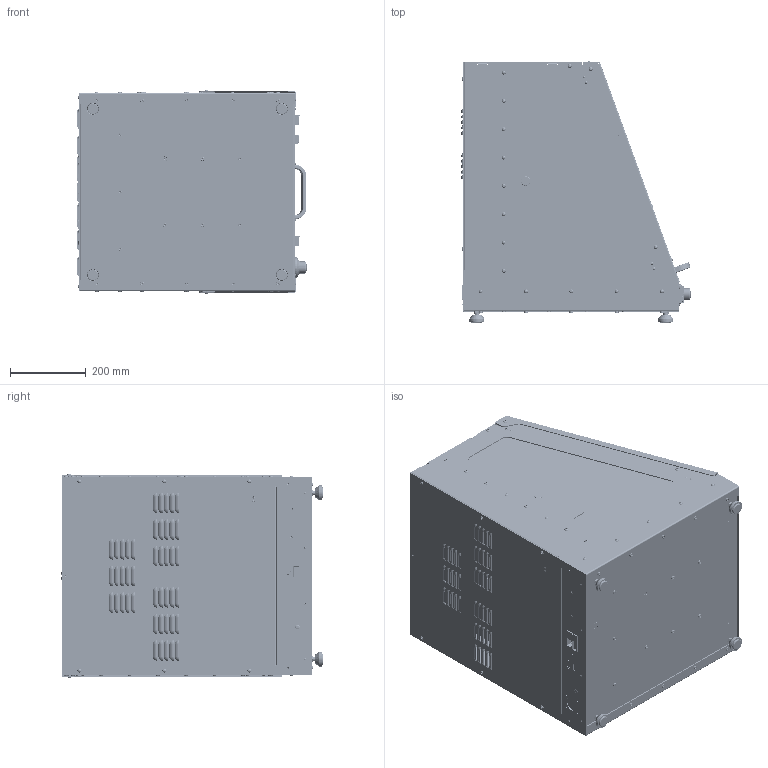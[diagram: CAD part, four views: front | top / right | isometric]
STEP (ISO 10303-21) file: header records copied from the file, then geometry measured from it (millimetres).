
FILE_DESCRIPTION (( 'STEP AP203' ), '1' );
FILE_NAME ('DZ 1376-2 Blechmaschine ICP 20-15.STEP', '2007-04-17T12:28:36', ( ' ' ), ( ' ' ), 'SwSTEP 2.0', 'SolidWorks 2006089', '' );
FILE_SCHEMA (( 'CONFIG_CONTROL_DESIGN' ));
Products named in the file (1): DZ 1376-2 Blechmaschine ICP 20-15
Bounding box: 608.92 x 692.52 x 541.4 mm (x, y, z)
Volume: 12253729 mm3; surface area: 7586422 mm2
Topology: 178 solids, 178 shells, 8304 faces, 20562 edges, 12580 vertices
Faces by surface type: plane 4545, cylinder 2170, cone 656, torus 496, bspline 297, sphere 140
Entity records: 265850 total; most frequent: CARTESIAN_POINT 66786, DIRECTION 42185, ORIENTED_EDGE 40548, EDGE_CURVE 20274, AXIS2_PLACEMENT_3D 15029, VERTEX_POINT 12580, VECTOR 12127, LINE 12127
